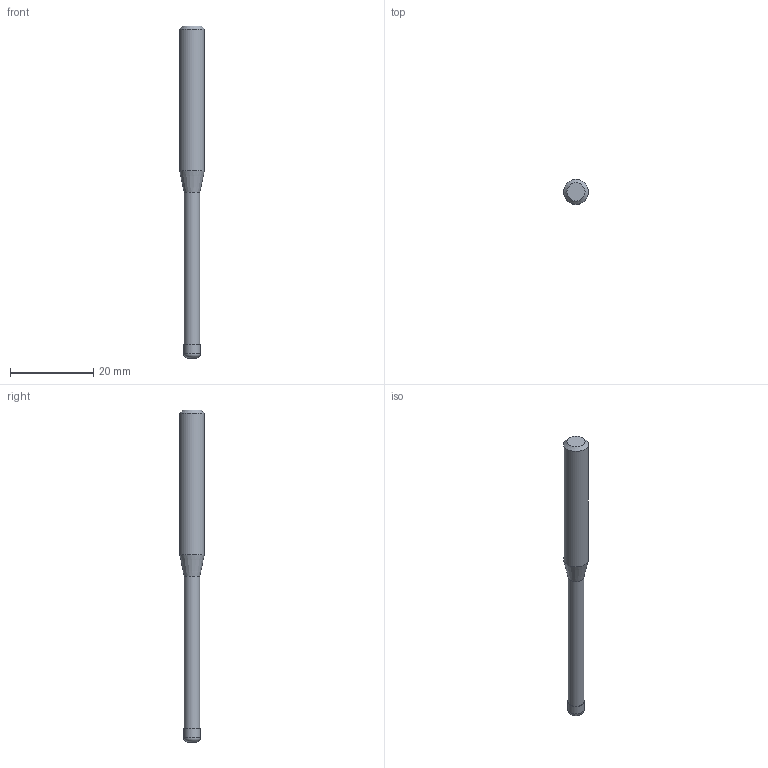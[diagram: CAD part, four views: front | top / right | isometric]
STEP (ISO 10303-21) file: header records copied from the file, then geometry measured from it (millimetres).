
FILE_DESCRIPTION((''),'2;1');
FILE_NAME('C:\Users\nsx150\AppData\Local\Temp\Mastercam 2021\CSMVKW3037\TEMP.step','2023-06-23T16:04:50',(''),(''),'STEP Write','Mastercam 2021 ... CNC Software, Inc.','');
FILE_SCHEMA(('AUTOMOTIVE_DESIGN'));
Length unit declared in the file: millimetre
Products named in the file (1): None
Bounding box: 6 x 6 x 80 mm (x, y, z)
Volume: 1533.6 mm3; surface area: 1266.7 mm2
Topology: 2 solids, 2 shells, 10 faces, 14 edges, 8 vertices
Faces by surface type: plane 4, cylinder 3, cone 2, torus 1
Full cylindrical faces by diameter (mm): 3.8 x1, 4 x1, 6 x1
Entity records: 232 total; most frequent: DIRECTION 40, CARTESIAN_POINT 28, AXIS2_PLACEMENT_3D 20, ORIENTED_EDGE 16, EDGE_LOOP 16, STYLED_ITEM 13, ADVANCED_FACE 10, FACE_BOUND 10
